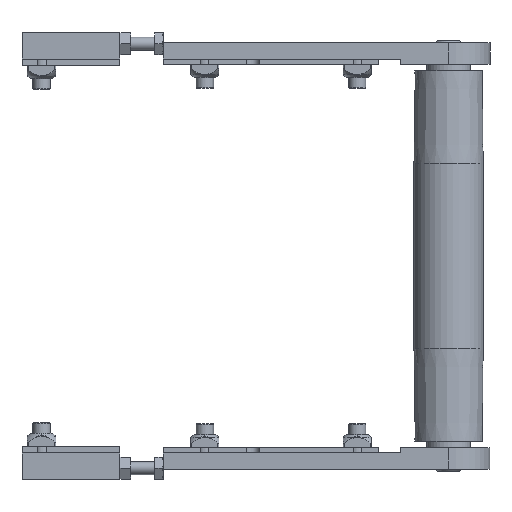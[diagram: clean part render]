
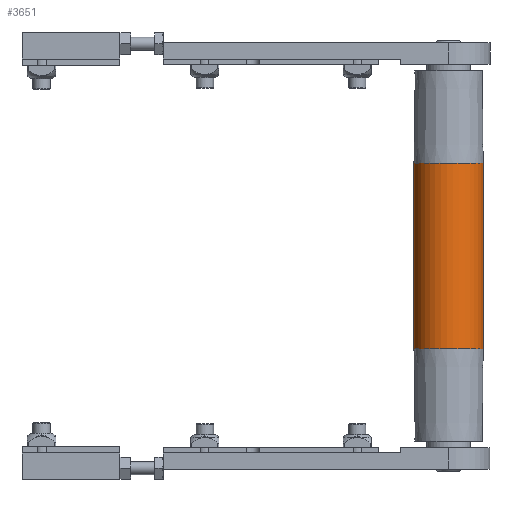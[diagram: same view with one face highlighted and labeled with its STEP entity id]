
A CAD part, front view. The second image highlights one B-rep face of the part: STEP entity #3651.
In plain terms, the highlighted cylindrical face has radius 16 mm (diameter 32 mm), a partial arc.
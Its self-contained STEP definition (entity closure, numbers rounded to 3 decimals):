
#221 = DIRECTION ( 'NONE',  ( -1., 0., 0. ) ) ;
#1223 = LINE ( 'NONE', #3531, #5973 ) ;
#1323 = DIRECTION ( 'NONE',  ( -1., 0., 0. ) ) ;
#1597 = CARTESIAN_POINT ( 'NONE',  ( 42.5, 0., 16. ) ) ;
#1599 = DIRECTION ( 'NONE',  ( -1., 0., 0. ) ) ;
#1662 = CIRCLE ( 'NONE', #4885, 16. ) ;
#1707 = CARTESIAN_POINT ( 'NONE',  ( -42.5, 0., 0. ) ) ;
#1734 = LINE ( 'NONE', #7594, #9370 ) ;
#1952 = ORIENTED_EDGE ( 'NONE', *, *, #7045, .T. ) ;
#2589 = CARTESIAN_POINT ( 'NONE',  ( -42.5, 0., 16. ) ) ;
#3054 = DIRECTION ( 'NONE',  ( 0., 0., 1. ) ) ;
#3112 = AXIS2_PLACEMENT_3D ( 'NONE', #8931, #4518, #3054 ) ;
#3531 = CARTESIAN_POINT ( 'NONE',  ( 99., 0., -16. ) ) ;
#3592 = CARTESIAN_POINT ( 'NONE',  ( 42.5, 0., -16. ) ) ;
#3593 = VERTEX_POINT ( 'NONE', #3592 ) ;
#3651 = ADVANCED_FACE ( 'NONE', ( #8237 ), #7826, .T. ) ;
#3718 = VERTEX_POINT ( 'NONE', #7428 ) ;
#3849 = AXIS2_PLACEMENT_3D ( 'NONE', #6013, #8224, #6070 ) ;
#4516 = VERTEX_POINT ( 'NONE', #2589 ) ;
#4518 = DIRECTION ( 'NONE',  ( -1., 0., 0. ) ) ;
#4531 = ORIENTED_EDGE ( 'NONE', *, *, #8468, .F. ) ;
#4568 = ORIENTED_EDGE ( 'NONE', *, *, #5917, .F. ) ;
#4885 = AXIS2_PLACEMENT_3D ( 'NONE', #1707, #1599, #8956 ) ;
#5917 = EDGE_CURVE ( 'NONE', #3718, #4516, #1662, .T. ) ;
#5973 = VECTOR ( 'NONE', #1323, 1000. ) ;
#6013 = CARTESIAN_POINT ( 'NONE',  ( 99., 0., 0. ) ) ;
#6070 = DIRECTION ( 'NONE',  ( 0., 0., 1. ) ) ;
#7045 = EDGE_CURVE ( 'NONE', #7506, #4516, #1734, .T. ) ;
#7428 = CARTESIAN_POINT ( 'NONE',  ( -42.5, 0., -16. ) ) ;
#7506 = VERTEX_POINT ( 'NONE', #1597 ) ;
#7594 = CARTESIAN_POINT ( 'NONE',  ( 99., 0., 16. ) ) ;
#7826 = CYLINDRICAL_SURFACE ( 'NONE', #3849, 16. ) ;
#8224 = DIRECTION ( 'NONE',  ( -1., 0., 0. ) ) ;
#8237 = FACE_OUTER_BOUND ( 'NONE', #8835, .T. ) ;
#8468 = EDGE_CURVE ( 'NONE', #3593, #3718, #1223, .T. ) ;
#8603 = ORIENTED_EDGE ( 'NONE', *, *, #8880, .T. ) ;
#8835 = EDGE_LOOP ( 'NONE', ( #4531, #8603, #1952, #4568 ) ) ;
#8880 = EDGE_CURVE ( 'NONE', #3593, #7506, #9564, .T. ) ;
#8931 = CARTESIAN_POINT ( 'NONE',  ( 42.5, 0., 0. ) ) ;
#8956 = DIRECTION ( 'NONE',  ( 0., 0., 1. ) ) ;
#9370 = VECTOR ( 'NONE', #221, 1000. ) ;
#9564 = CIRCLE ( 'NONE', #3112, 16. ) ;
